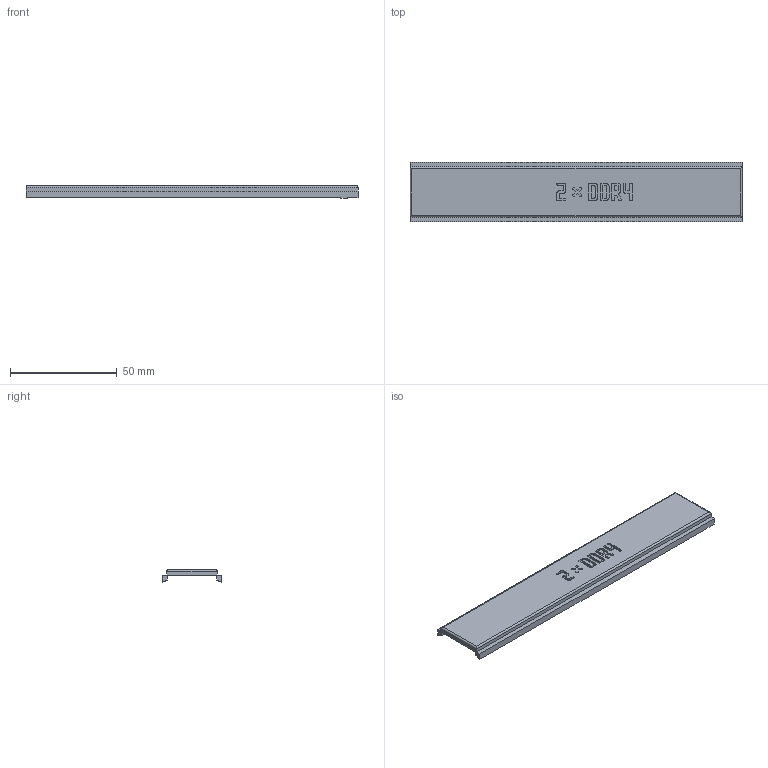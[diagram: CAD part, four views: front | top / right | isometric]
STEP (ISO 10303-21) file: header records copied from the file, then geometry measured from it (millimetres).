
FILE_DESCRIPTION(('Open CASCADE Model'),'2;1');
FILE_NAME('Open CASCADE Shape Model','2026-11-03T17:05:47',('Author'),( 'Open CASCADE'),'Open CASCADE STEP processor 8.0','build123d', 'Unknown');
FILE_SCHEMA(('AUTOMOTIVE_DESIGN { 1 0 10303 214 1 1 1 1 }'));
Length unit declared in the file: millimetre
Products named in the file (1): COMPOUND
Bounding box: 155.4 x 27.9 x 5.9 mm (x, y, z)
Volume: 11899.2 mm3; surface area: 11416.9 mm2
Topology: 1 solids, 1 shells, 592 faces, 1736 edges, 1156 vertices
Faces by surface type: plane 586, cylinder 6
Entity records: 41834 total; most frequent: CARTESIAN_POINT 7051, DIRECTION 6366, LINE 5162, VECTOR 5162, ORIENTED_EDGE 3472, PCURVE 3472, DEFINITIONAL_REPRESENTATION 3472, EDGE_CURVE 1736
